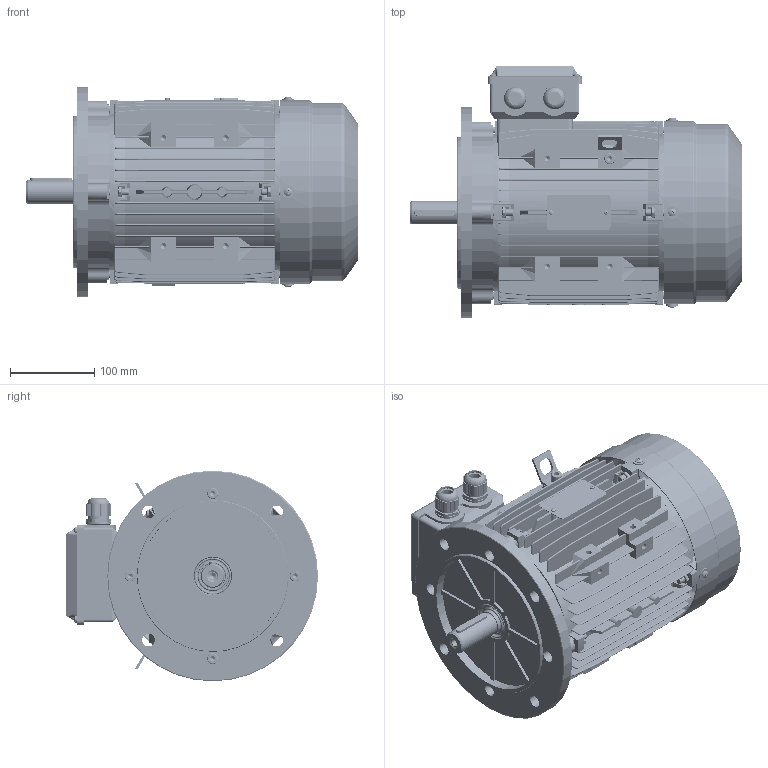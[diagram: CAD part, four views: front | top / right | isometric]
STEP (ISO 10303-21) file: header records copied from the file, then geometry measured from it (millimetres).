
FILE_DESCRIPTION (( 'STEP AP203' ), '1' );
FILE_NAME ('MS112 B5µç»ú.STEP', '2014-07-03T09:35:27', ( 'User' ), ( 'Microsoft' ), 'SwSTEP 2.0', 'SolidWorks 2012', '' );
FILE_SCHEMA (( 'CONFIG_CONTROL_DESIGN' ));
Length unit declared in the file: millimetre
Products named in the file (39): MS112 B5萇儂; MS112 B5湮楊擘; 菁褐囀鞠褒M8X20-C_GB_FASTENER_SCREWS_HSHCS M8X20-C; 裂遠; 112隅赽; 306疏倛粟銅菜D72; 出线螺套密封圈  25; M3X5-5 霧齪蹟隊_GB_CROSS_SCREWS_TYPE1 M3X5-5  H type-C; 霧齪 80-132; M25蹟杶俋杶; M25出线螺套橡胶塞; 諉盄啣攫芛蹟隊M5X25-25  H type-C_GB_CROSS_SCREWS_TYPE1 M5X25-25  H type-C; ヶ裔蹟隊 M8X30-C_GB_FASTENER_SCREWS_HSHCS M8X25-C; 諉盄啣112-132; 堤盄蹟杶M25℅1.5; 踡隅蹟隊M5X6-C_GB_FASTENER_SCREWS_HSCP M5X6-C; 奻裔攫芛蹟隊M4X16-16  H type-C_GB_CROSS_SCREWS_TYPE1 M4X16-16  H type-C; 諉盄碟奻裔蝶菜; 諉華蹟隊 M5X10-10  H type-C_GB_CROSS_SCREWS_TYPE1 M5X10-10  H type-C; 5.5繩豪菜えㄗ苤ㄘ; 5.5繩豪菜え; 瑞欶蹟隊M5X10-6  H type-C_GB_CROSS_SCREWS_TYPE1 M5X10-10  H type-C; 傷裔蹟譫 M8-C_GB_FASTENER_NUT_STNAB M8-C; 菁褐粟銅菜 8_GB_FASTENER_WASHER_SW 8; 傷裔蹟隊 M8X40-C_GB_FSTENER_SCREWS_HSHCS M8X40-C; 狟裔攫芛蹟隊M5X16-16  H type-C_GB_CROSS_SCREWS_TYPE1 M5X16-16  H type-C; す瑩X50_GB_CONNECTING_PIECE_KEYS_CWK 8X50; 諶遠29_GB_CONNECTING_PIECE_RINGS_CSB 29; 30×44×7油封; 112-132狟裔蝶菜; 112-132諉盄碟奻裔; MS112-132諉盄碟釱; MS112M儂褲; MS112瑞欶; MS112 B3綴裔; MS112-4拸粣蛌赽; 6306粣創; Y2-112-4瑞珔; MS112M蛌粣
Assembly tree (82 placements, depth 2):
  MS112 B5萇儂
    MS112M蛌粣
    Y2-112-4瑞珔
    6306粣創  x2
    MS112-4拸粣蛌赽
    MS112 B3綴裔
    MS112瑞欶
    MS112M儂褲
    MS112-132諉盄碟釱
    112-132諉盄碟奻裔
    112-132狟裔蝶菜
    30×44×7油封  x2
    諶遠29_GB_CONNECTING_PIECE_RINGS_CSB 29
    す瑩X50_GB_CONNECTING_PIECE_KEYS_CWK 8X50
    狟裔攫芛蹟隊M5X16-16  H type-C_GB_CROSS_SCREWS_TYPE1 M5X16-16  H type-C  x4
    傷裔蹟隊 M8X40-C_GB_FSTENER_SCREWS_HSHCS M8X40-C  x7
    菁褐粟銅菜 8_GB_FASTENER_WASHER_SW 8  x10
    傷裔蹟譫 M8-C_GB_FASTENER_NUT_STNAB M8-C  x7
    瑞欶蹟隊M5X10-6  H type-C_GB_CROSS_SCREWS_TYPE1 M5X10-10  H type-C  x4
    5.5繩豪菜え  x4
    5.5繩豪菜えㄗ苤ㄘ  x2
    諉華蹟隊 M5X10-10  H type-C_GB_CROSS_SCREWS_TYPE1 M5X10-10  H type-C  x2
    諉盄碟奻裔蝶菜
    奻裔攫芛蹟隊M4X16-16  H type-C_GB_CROSS_SCREWS_TYPE1 M4X16-16  H type-C  x4
    踡隅蹟隊M5X6-C_GB_FASTENER_SCREWS_HSCP M5X6-C
    堤盄蹟杶M25℅1.5  x2
    諉盄啣112-132
    ヶ裔蹟隊 M8X30-C_GB_FASTENER_SCREWS_HSHCS M8X25-C
    諉盄啣攫芛蹟隊M5X25-25  H type-C_GB_CROSS_SCREWS_TYPE1 M5X25-25  H type-C
    M25出线螺套橡胶塞  x2
    M25蹟杶俋杶  x2
    霧齪 80-132
    M3X5-5 霧齪蹟隊_GB_CROSS_SCREWS_TYPE1 M3X5-5  H type-C  x2
    出线螺套密封圈  25  x2
    306疏倛粟銅菜D72
    112隅赽
    裂遠  x2
    菁褐囀鞠褒M8X20-C_GB_FASTENER_SCREWS_HSHCS M8X20-C  x2
    MS112 B5湮楊擘
Bounding box: 393.93 x 299 x 250 mm (x, y, z)
Volume: 5038902.4 mm3; surface area: 1789599.7 mm2
Topology: 95 solids, 95 shells, 6666 faces, 17686 edges, 11367 vertices
Faces by surface type: plane 3367, cylinder 2138, cone 417, torus 410, sphere 186, bspline 148
Entity records: 193110 total; most frequent: CARTESIAN_POINT 52249, ORIENTED_EDGE 28888, DIRECTION 27425, EDGE_CURVE 14444, AXIS2_PLACEMENT_3D 9367, VERTEX_POINT 9330, LINE 8691, VECTOR 8691
